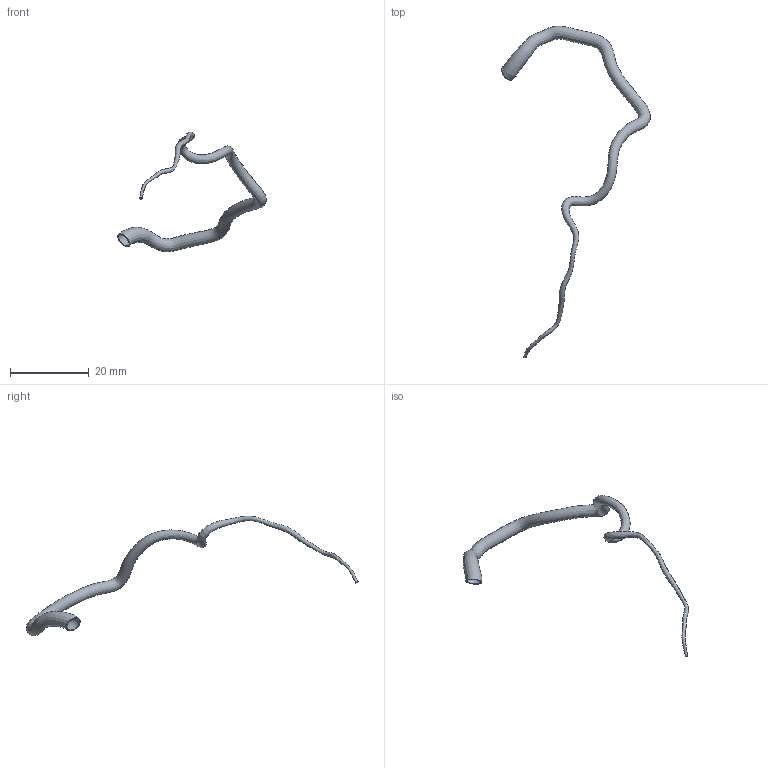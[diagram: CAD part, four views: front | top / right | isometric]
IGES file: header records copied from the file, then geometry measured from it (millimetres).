
Global section: file name: C:\Documents and Settings\Administrator\Desktop\FDA-Pig\Domestic RCA\Pig_000005\rca.seg.ed.igs; native system: Rhinoceros ( May 19 2006 ); preprocessor: Trout Lake IGES 012 May 19 2006; date: 111205.185157; units: centimetre
Bounding box: 37.67 x 84.08 x 30.29 mm (x, y, z)
Surface area: 1976.8 mm2 (no closed solid volume)
Topology: 0 solids, 0 shells, 4 faces, 13 edges, 10 vertices
Faces by surface type: bspline 4
